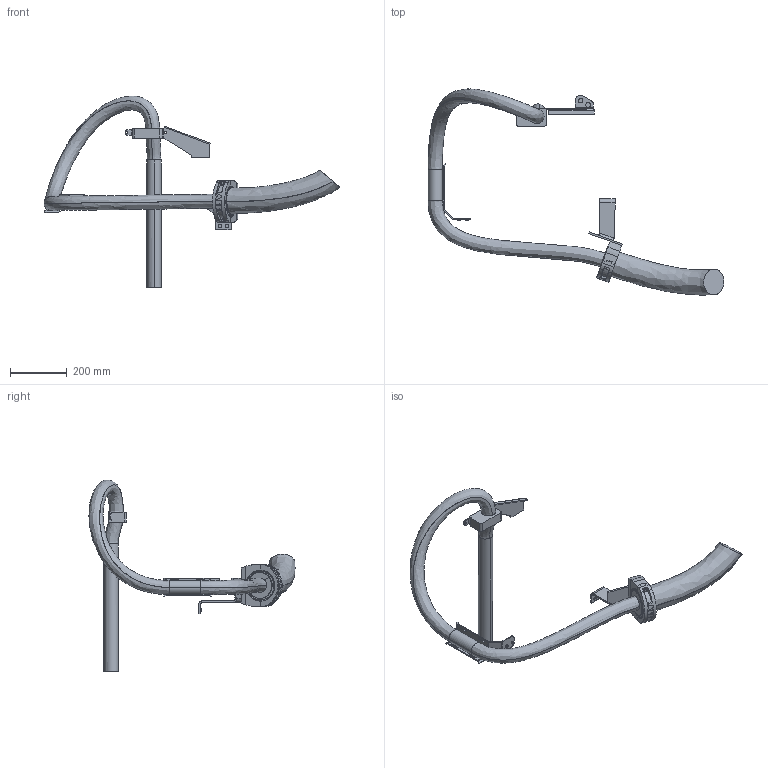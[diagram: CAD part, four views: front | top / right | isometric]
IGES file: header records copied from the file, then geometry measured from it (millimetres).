
Start section: SolidWorks IGES file using analytic representation for surfaces
Global section: file name: C:\Data\SAP_DOC\IRB6740_lightweight\6750S\IRB 6750S ASM\IRB6750S-MH3_350kg-320_OC_02_SW_J\IRB6750S-MH3_350kg-320_OC_02_IGES_J\IRB6750S-ALL-OC_00_LINK01_CABLE.igs; native system: SolidWorks 2024; preprocessor: SolidWorks 2024; author: SEJAOLS6; date: 260507.085213; units: millimetre
Bounding box: 1041.52 x 725.79 x 674.54 mm (x, y, z)
Surface area: 629096.5 mm2 (no closed solid volume)
Topology: 0 solids, 0 shells, 363 faces, 5300 edges, 5300 vertices
Faces by surface type: bspline 232, revolution 131
